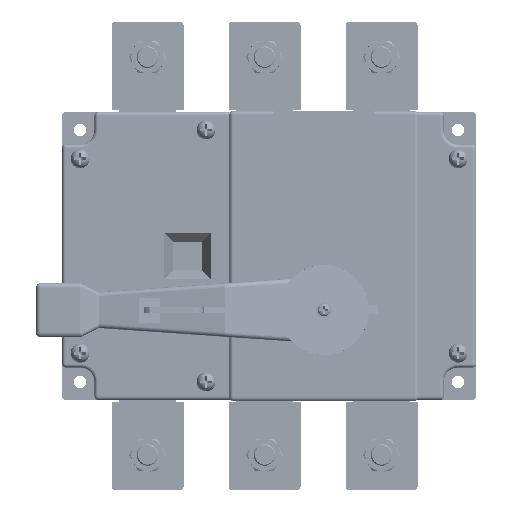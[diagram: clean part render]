
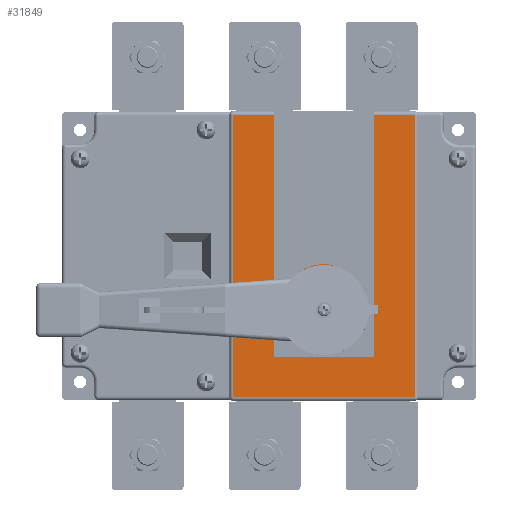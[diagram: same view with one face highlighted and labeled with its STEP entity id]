
A CAD part, front view. The second image highlights one B-rep face of the part: STEP entity #31849.
In plain terms, the highlighted planar face has unit normal (0, -1, 0).
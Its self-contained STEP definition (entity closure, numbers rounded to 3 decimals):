
#29645=CARTESIAN_POINT('',(0.,0.,-30.));
#29646=DIRECTION('',(0.,-1.,0.));
#29647=DIRECTION('',(-1.,0.,0.));
#29648=AXIS2_PLACEMENT_3D('',#29645,#29646,#29647);
#29683=CARTESIAN_POINT('',(0.,0.,-30.));
#29684=DIRECTION('',(0.,-1.,0.));
#29685=DIRECTION('',(0.476,0.,0.879));
#29686=AXIS2_PLACEMENT_3D('',#29683,#29684,#29685);
#29696=DIRECTION('',(0.,0.,1.));
#29697=VECTOR('',#29696,157.);
#29698=CARTESIAN_POINT('',(50.5,0.,-78.5));
#29699=LINE('',#29698,#29697);
#29700=DIRECTION('',(1.,0.,0.));
#29701=VECTOR('',#29700,101.);
#29702=CARTESIAN_POINT('',(-50.5,0.,-78.5));
#29703=LINE('',#29702,#29701);
#29704=DIRECTION('',(0.,0.,-1.));
#29705=VECTOR('',#29704,157.);
#29706=CARTESIAN_POINT('',(-50.5,0.,78.5));
#29707=LINE('',#29706,#29705);
#29708=DIRECTION('',(-1.,0.,0.));
#29709=VECTOR('',#29708,22.5);
#29710=CARTESIAN_POINT('',(-28.,0.,78.5));
#29711=LINE('',#29710,#29709);
#29712=DIRECTION('',(-1.,0.,0.));
#29713=VECTOR('',#29712,4.843);
#29714=CARTESIAN_POINT('',(-23.157,0.,-24.));
#29715=LINE('',#29714,#29713);
#29716=CARTESIAN_POINT('',(0.,0.,-28.));
#29717=DIRECTION('',(0.,-1.,0.));
#29718=DIRECTION('',(0.213,0.,0.977));
#29719=AXIS2_PLACEMENT_3D('',#29716,#29717,#29718);
#29721=DIRECTION('',(1.,0.,0.));
#29722=VECTOR('',#29721,18.767);
#29723=CARTESIAN_POINT('',(-28.,0.,-35.));
#29724=LINE('',#29723,#29722);
#29725=DIRECTION('',(0.,0.,-1.));
#29726=VECTOR('',#29725,21.);
#29727=CARTESIAN_POINT('',(-28.,0.,-35.));
#29728=LINE('',#29727,#29726);
#29729=DIRECTION('',(1.,0.,0.));
#29730=VECTOR('',#29729,56.);
#29731=CARTESIAN_POINT('',(-28.,0.,-56.));
#29732=LINE('',#29731,#29730);
#29733=DIRECTION('',(-1.,0.,0.));
#29734=VECTOR('',#29733,22.5);
#29735=CARTESIAN_POINT('',(50.5,0.,78.5));
#29736=LINE('',#29735,#29734);
#29777=DIRECTION('',(0.,0.,-1.));
#29778=VECTOR('',#29777,134.5);
#29779=CARTESIAN_POINT('',(28.,0.,78.5));
#29780=LINE('',#29779,#29778);
#29793=DIRECTION('',(0.,0.,1.));
#29794=VECTOR('',#29793,102.5);
#29795=CARTESIAN_POINT('',(-28.,0.,-24.));
#29796=LINE('',#29795,#29794);
#29904=DIRECTION('',(0.,0.,1.));
#29905=VECTOR('',#29904,15.729);
#29906=CARTESIAN_POINT('',(5.,0.,-20.767));
#29907=LINE('',#29906,#29905);
#30359=CARTESIAN_POINT('',(-28.,0.,-56.));
#30360=CARTESIAN_POINT('',(28.,0.,-56.));
#30361=VERTEX_POINT('',#30359);
#30362=VERTEX_POINT('',#30360);
#30367=CARTESIAN_POINT('',(5.,0.,-5.038));
#30368=CARTESIAN_POINT('',(-23.157,0.,-24.));
#30369=VERTEX_POINT('',#30367);
#30370=VERTEX_POINT('',#30368);
#30381=CARTESIAN_POINT('',(-28.,0.,-35.));
#30382=VERTEX_POINT('',#30381);
#30383=CARTESIAN_POINT('',(-28.,0.,-24.));
#30384=VERTEX_POINT('',#30383);
#30385=CARTESIAN_POINT('',(-10.5,0.,-30.));
#30386=CARTESIAN_POINT('',(-9.233,0.,-35.));
#30387=VERTEX_POINT('',#30385);
#30388=VERTEX_POINT('',#30386);
#30389=CARTESIAN_POINT('',(5.,0.,-20.767));
#30390=VERTEX_POINT('',#30389);
#30661=CARTESIAN_POINT('',(50.5,0.,-78.5));
#30662=CARTESIAN_POINT('',(50.5,0.,78.5));
#30663=VERTEX_POINT('',#30661);
#30664=VERTEX_POINT('',#30662);
#30675=CARTESIAN_POINT('',(-50.5,0.,-78.5));
#30676=VERTEX_POINT('',#30675);
#30685=CARTESIAN_POINT('',(-50.5,0.,78.5));
#30686=VERTEX_POINT('',#30685);
#30703=CARTESIAN_POINT('',(28.,0.,78.5));
#30704=VERTEX_POINT('',#30703);
#30705=CARTESIAN_POINT('',(-28.,0.,78.5));
#30706=VERTEX_POINT('',#30705);
#31814=CARTESIAN_POINT('',(0.,0.,0.));
#31815=DIRECTION('',(0.,1.,0.));
#31816=DIRECTION('',(1.,0.,0.));
#31817=AXIS2_PLACEMENT_3D('',#31814,#31815,#31816);
#31818=PLANE('',#31817);
#31820=ORIENTED_EDGE('',*,*,#31819,.F.);
#31822=ORIENTED_EDGE('',*,*,#31821,.F.);
#31824=ORIENTED_EDGE('',*,*,#31823,.F.);
#31826=ORIENTED_EDGE('',*,*,#31825,.F.);
#31828=ORIENTED_EDGE('',*,*,#31827,.F.);
#31830=ORIENTED_EDGE('',*,*,#31829,.F.);
#31832=ORIENTED_EDGE('',*,*,#31831,.F.);
#31834=ORIENTED_EDGE('',*,*,#31833,.F.);
#31835=ORIENTED_EDGE('',*,*,#31803,.T.);
#31836=ORIENTED_EDGE('',*,*,#31761,.T.);
#31838=ORIENTED_EDGE('',*,*,#31837,.F.);
#31840=ORIENTED_EDGE('',*,*,#31839,.T.);
#31842=ORIENTED_EDGE('',*,*,#31841,.T.);
#31844=ORIENTED_EDGE('',*,*,#31843,.F.);
#31846=ORIENTED_EDGE('',*,*,#31845,.F.);
#31847=EDGE_LOOP('',(#31820,#31822,#31824,#31826,#31828,#31830,#31832,#31834,
#31835,#31836,#31838,#31840,#31842,#31844,#31846));
#31848=FACE_OUTER_BOUND('',#31847,.F.);
#31849=ADVANCED_FACE('',(#31848),#31818,.F.);
#29649=CIRCLE('',#29648,10.5);
#29687=CIRCLE('',#29686,10.5);
#29720=CIRCLE('',#29719,23.5);
#31761=EDGE_CURVE('',#30387,#30388,#29649,.T.);
#31803=EDGE_CURVE('',#30390,#30387,#29687,.T.);
#31819=EDGE_CURVE('',#30663,#30664,#29699,.T.);
#31821=EDGE_CURVE('',#30676,#30663,#29703,.T.);
#31823=EDGE_CURVE('',#30686,#30676,#29707,.T.);
#31825=EDGE_CURVE('',#30706,#30686,#29711,.T.);
#31827=EDGE_CURVE('',#30384,#30706,#29796,.T.);
#31829=EDGE_CURVE('',#30370,#30384,#29715,.T.);
#31831=EDGE_CURVE('',#30369,#30370,#29720,.T.);
#31833=EDGE_CURVE('',#30390,#30369,#29907,.T.);
#31837=EDGE_CURVE('',#30382,#30388,#29724,.T.);
#31839=EDGE_CURVE('',#30382,#30361,#29728,.T.);
#31841=EDGE_CURVE('',#30361,#30362,#29732,.T.);
#31843=EDGE_CURVE('',#30704,#30362,#29780,.T.);
#31845=EDGE_CURVE('',#30664,#30704,#29736,.T.);
